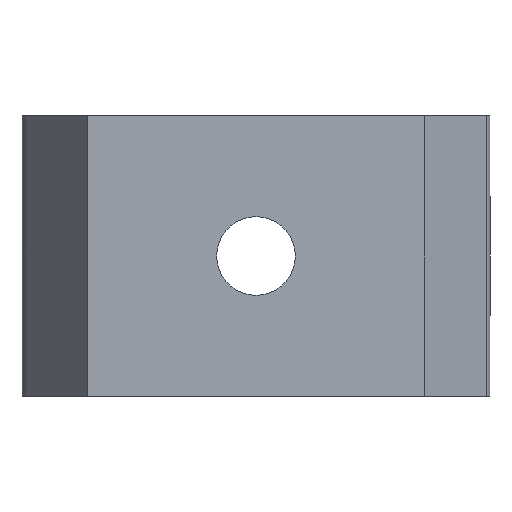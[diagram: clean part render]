
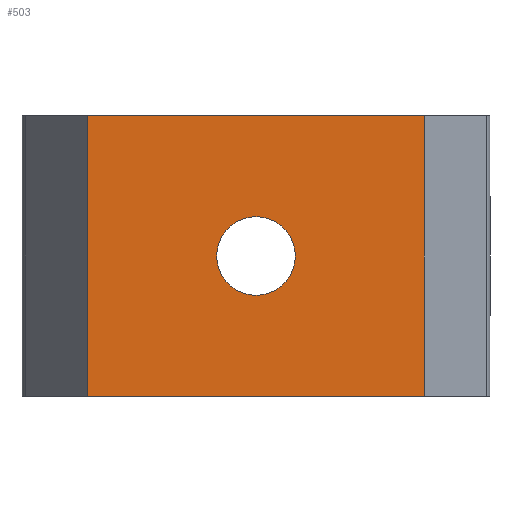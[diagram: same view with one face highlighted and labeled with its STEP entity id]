
A CAD part, front view. The second image highlights one B-rep face of the part: STEP entity #503.
In plain terms, the highlighted planar face has unit normal (0, -1, 0).
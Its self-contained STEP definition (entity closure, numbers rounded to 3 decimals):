
#14 = ORIENTED_EDGE ( 'NONE', *, *, #278, .F. ) ;
#37 = CARTESIAN_POINT ( 'NONE',  ( 0., -6.956, 15. ) ) ;
#63 = ORIENTED_EDGE ( 'NONE', *, *, #639, .T. ) ;
#130 = VERTEX_POINT ( 'NONE', #666 ) ;
#137 = EDGE_CURVE ( 'NONE', #362, #521, #554, .T. ) ;
#140 = CARTESIAN_POINT ( 'NONE',  ( 0., -6.956, 15. ) ) ;
#141 = VECTOR ( 'NONE', #182, 1000. ) ;
#142 = ORIENTED_EDGE ( 'NONE', *, *, #488, .F. ) ;
#156 = ORIENTED_EDGE ( 'NONE', *, *, #607, .T. ) ;
#182 = DIRECTION ( 'NONE',  ( 1., 0., 0. ) ) ;
#219 = VECTOR ( 'NONE', #960, 1000. ) ;
#228 = FACE_OUTER_BOUND ( 'NONE', #1025, .T. ) ;
#236 = LINE ( 'NONE', #776, #219 ) ;
#238 = CARTESIAN_POINT ( 'NONE',  ( 0.956, -6.956, 7.5 ) ) ;
#257 = VECTOR ( 'NONE', #975, 1000. ) ;
#266 = CARTESIAN_POINT ( 'NONE',  ( 0.956, -6.956, 7.5 ) ) ;
#278 = EDGE_CURVE ( 'NONE', #130, #1038, #236, .T. ) ;
#298 = EDGE_LOOP ( 'NONE', ( #792, #63 ) ) ;
#330 = DIRECTION ( 'NONE',  ( -1., 0., 0. ) ) ;
#337 = AXIS2_PLACEMENT_3D ( 'NONE', #140, #892, #395 ) ;
#355 = DIRECTION ( 'NONE',  ( -1., 0., 0. ) ) ;
#362 = VERTEX_POINT ( 'NONE', #933 ) ;
#366 = EDGE_CURVE ( 'NONE', #406, #1038, #392, .T. ) ;
#392 = LINE ( 'NONE', #1017, #141 ) ;
#395 = DIRECTION ( 'NONE',  ( -1., 0., 0. ) ) ;
#406 = VERTEX_POINT ( 'NONE', #942 ) ;
#411 = CIRCLE ( 'NONE', #1012, 2.1 ) ;
#451 = CARTESIAN_POINT ( 'NONE',  ( 9.956, -6.956, 0. ) ) ;
#475 = CARTESIAN_POINT ( 'NONE',  ( 0.956, -6.956, 5.4 ) ) ;
#476 = LINE ( 'NONE', #37, #257 ) ;
#481 = CARTESIAN_POINT ( 'NONE',  ( -8.044, -6.956, 15. ) ) ;
#487 = AXIS2_PLACEMENT_3D ( 'NONE', #266, #848, #355 ) ;
#488 = EDGE_CURVE ( 'NONE', #1049, #130, #476, .T. ) ;
#503 = ADVANCED_FACE ( 'NONE', ( #722, #228 ), #802, .F. ) ;
#521 = VERTEX_POINT ( 'NONE', #475 ) ;
#554 = CIRCLE ( 'NONE', #487, 2.1 ) ;
#596 = VECTOR ( 'NONE', #813, 1000. ) ;
#607 = EDGE_CURVE ( 'NONE', #1049, #406, #626, .T. ) ;
#614 = CARTESIAN_POINT ( 'NONE',  ( -8.044, -6.956, 15. ) ) ;
#626 = LINE ( 'NONE', #481, #596 ) ;
#639 = EDGE_CURVE ( 'NONE', #521, #362, #411, .T. ) ;
#666 = CARTESIAN_POINT ( 'NONE',  ( 9.956, -6.956, 15. ) ) ;
#722 = FACE_BOUND ( 'NONE', #298, .T. ) ;
#776 = CARTESIAN_POINT ( 'NONE',  ( 9.956, -6.956, 15. ) ) ;
#792 = ORIENTED_EDGE ( 'NONE', *, *, #137, .T. ) ;
#802 = PLANE ( 'NONE',  #337 ) ;
#813 = DIRECTION ( 'NONE',  ( 0., 0., -1. ) ) ;
#821 = DIRECTION ( 'NONE',  ( 0., 1., 0. ) ) ;
#848 = DIRECTION ( 'NONE',  ( 0., 1., 0. ) ) ;
#892 = DIRECTION ( 'NONE',  ( 0., 1., 0. ) ) ;
#915 = ORIENTED_EDGE ( 'NONE', *, *, #366, .T. ) ;
#933 = CARTESIAN_POINT ( 'NONE',  ( 0.956, -6.956, 9.6 ) ) ;
#942 = CARTESIAN_POINT ( 'NONE',  ( -8.044, -6.956, 0. ) ) ;
#960 = DIRECTION ( 'NONE',  ( 0., 0., -1. ) ) ;
#975 = DIRECTION ( 'NONE',  ( 1., 0., 0. ) ) ;
#1012 = AXIS2_PLACEMENT_3D ( 'NONE', #238, #821, #330 ) ;
#1017 = CARTESIAN_POINT ( 'NONE',  ( 0., -6.956, 0. ) ) ;
#1025 = EDGE_LOOP ( 'NONE', ( #915, #14, #142, #156 ) ) ;
#1038 = VERTEX_POINT ( 'NONE', #451 ) ;
#1049 = VERTEX_POINT ( 'NONE', #614 ) ;
